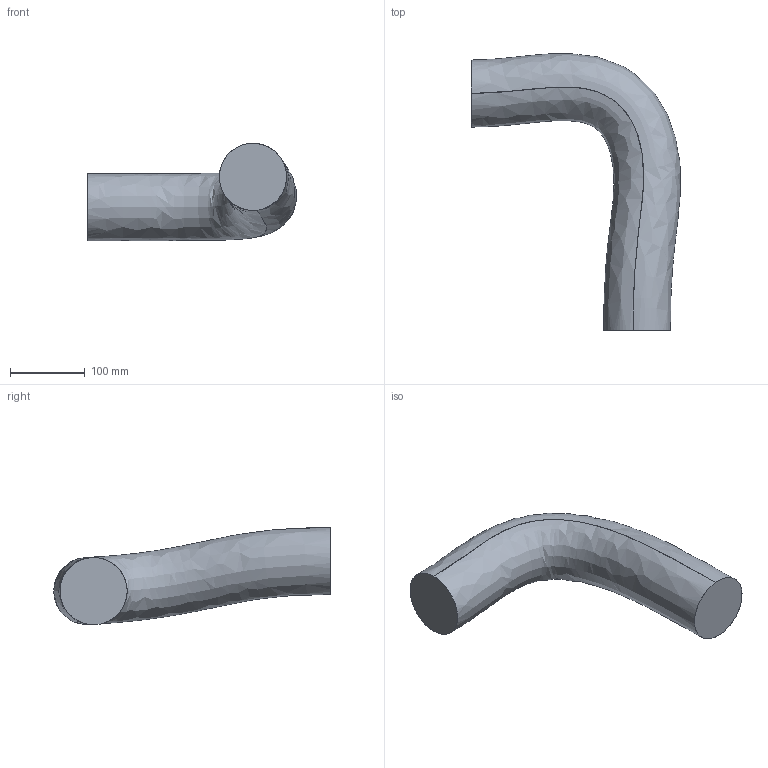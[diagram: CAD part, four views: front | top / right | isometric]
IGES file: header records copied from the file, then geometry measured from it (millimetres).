
Start section: SolidWorks IGES file using analytic representation for surfaces
Global section: file name: C:\Users\SEALDUN\OneDrive - ABB\Documents\R&D Robotics\Work Items\WI 632927 light weight hole removal\IGES\IRB5720-LID-MH_90kg-300_OC_03_IGES_J\IRB5720-LID_90kg-300_OmniCore_rev00_LINK05_CABLE.igs; native system: SolidWorks 2024; preprocessor: SolidWorks 2024; author: SEALDUN; date: 250708.123123; units: millimetre
Bounding box: 280.17 x 371.27 x 130.54 mm (x, y, z)
Surface area: 159900.1 mm2 (no closed solid volume)
Topology: 0 solids, 0 shells, 4 faces, 136 edges, 136 vertices
Faces by surface type: bspline 4
